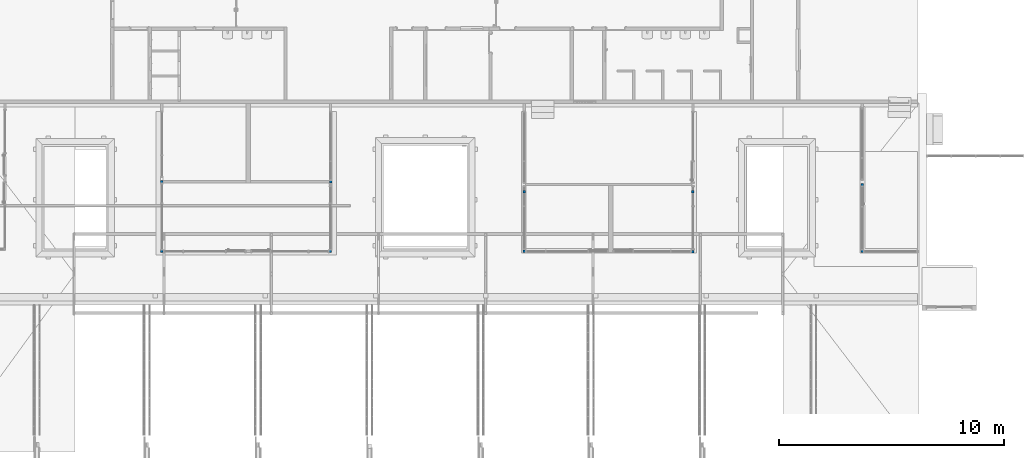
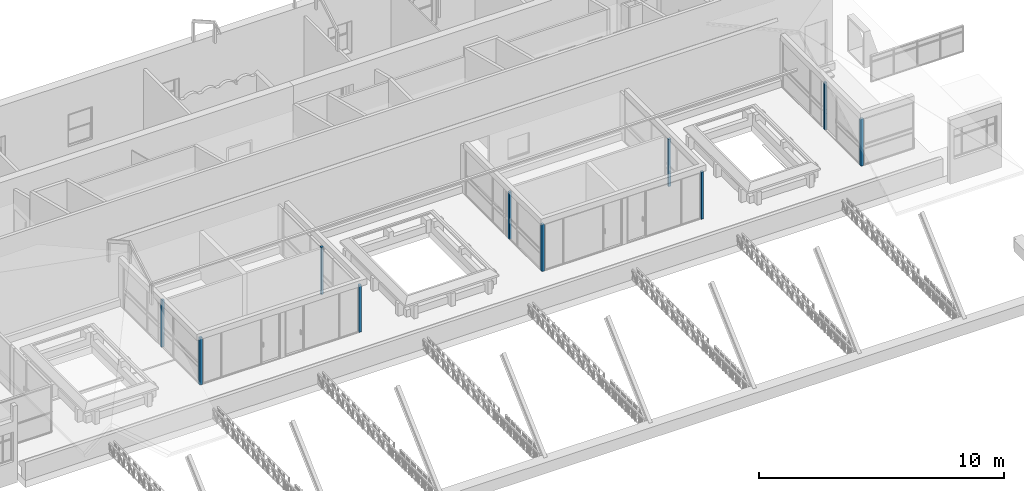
# One storey, part 1 of 153: 10 columns.
"""IFC4 building model written with IfcOpenShell, lengths in metres."""

from ifc_helpers import new_model, entity, si_unit, converted_unit, derived_unit, direction, frame, origin, place, context, subcontext, project, spatial, indexed_curve, outline, extrude, source, transform, mapped, material, type_object, type_shapes, element, save


model = new_model("IFC4")

# Units and contexts
model_context = context("Model", 3, precision=1e-05, world=origin(), true_north=direction((6.123031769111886e-17, 1.0)))
body_context = subcontext(model_context, "Body", "Model", "MODEL_VIEW")
ifc_project = project(units=[si_unit("LENGTHUNIT", "METRE"), si_unit("AREAUNIT", "SQUARE_METRE"), si_unit("VOLUMEUNIT", "CUBIC_METRE"), converted_unit("PLANEANGLEUNIT", "DEGREE", entity("IfcRatioMeasure", 0.017453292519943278), si_unit("PLANEANGLEUNIT", "RADIAN"), dimensions=[0, 0, 0, 0, 0, 0, 0]), si_unit("MASSUNIT", "GRAM", prefix="KILO"), derived_unit("MASSDENSITYUNIT", [(si_unit("MASSUNIT", "GRAM", prefix="KILO"), 1), (si_unit("LENGTHUNIT", "METRE"), -3)]), derived_unit("MOMENTOFINERTIAUNIT", [(si_unit("LENGTHUNIT", "METRE"), 4)]), si_unit("TIMEUNIT", "SECOND"), si_unit("FREQUENCYUNIT", "HERTZ"), si_unit("THERMODYNAMICTEMPERATUREUNIT", "DEGREE_CELSIUS"), derived_unit("THERMALTRANSMITTANCEUNIT", [(si_unit("MASSUNIT", "GRAM", prefix="KILO"), 1), (si_unit("THERMODYNAMICTEMPERATUREUNIT", "KELVIN"), -1), (si_unit("TIMEUNIT", "SECOND"), -3)]), derived_unit("VOLUMETRICFLOWRATEUNIT", [(si_unit("LENGTHUNIT", "METRE"), 3), (si_unit("TIMEUNIT", "SECOND"), -1)]), derived_unit("MASSFLOWRATEUNIT", [(si_unit("MASSUNIT", "GRAM", prefix="KILO"), 1), (si_unit("TIMEUNIT", "SECOND"), -1)]), derived_unit("ROTATIONALFREQUENCYUNIT", [(si_unit("TIMEUNIT", "SECOND"), -1)]), si_unit("ELECTRICCURRENTUNIT", "AMPERE"), si_unit("ELECTRICVOLTAGEUNIT", "VOLT"), si_unit("POWERUNIT", "WATT"), si_unit("FORCEUNIT", "NEWTON", prefix="KILO"), si_unit("ILLUMINANCEUNIT", "LUX"), si_unit("LUMINOUSFLUXUNIT", "LUMEN"), si_unit("LUMINOUSINTENSITYUNIT", "CANDELA"), derived_unit("USERDEFINED", [(si_unit("MASSUNIT", "GRAM", prefix="KILO"), -1), (si_unit("LENGTHUNIT", "METRE"), -2), (si_unit("TIMEUNIT", "SECOND"), 3), (si_unit("LUMINOUSFLUXUNIT", "LUMEN"), 1)]), derived_unit("SOUNDPOWERUNIT", [(si_unit("MASSUNIT", "GRAM", prefix="KILO"), 1), (si_unit("LENGTHUNIT", "METRE"), 2), (si_unit("TIMEUNIT", "SECOND"), -3)]), derived_unit("SOUNDPRESSUREUNIT", [(si_unit("MASSUNIT", "GRAM", prefix="KILO"), 1), (si_unit("LENGTHUNIT", "METRE"), -1), (si_unit("TIMEUNIT", "SECOND"), -2)]), derived_unit("LINEARVELOCITYUNIT", [(si_unit("LENGTHUNIT", "METRE"), 1), (si_unit("TIMEUNIT", "SECOND"), -1)]), si_unit("PRESSUREUNIT", "PASCAL"), derived_unit("USERDEFINED", [(si_unit("LENGTHUNIT", "METRE"), -2), (si_unit("MASSUNIT", "GRAM", prefix="KILO"), 1), (si_unit("TIMEUNIT", "SECOND"), -2)]), derived_unit("LINEARFORCEUNIT", [(si_unit("MASSUNIT", "GRAM", prefix="KILO"), 1), (si_unit("LENGTHUNIT", "METRE"), 1), (si_unit("TIMEUNIT", "SECOND"), -2), (si_unit("LENGTHUNIT", "METRE"), -1)]), derived_unit("PLANARFORCEUNIT", [(si_unit("MASSUNIT", "GRAM", prefix="KILO"), 1), (si_unit("LENGTHUNIT", "METRE"), 1), (si_unit("TIMEUNIT", "SECOND"), -2), (si_unit("LENGTHUNIT", "METRE"), -2)])], contexts=[model_context])

# Site, building, storey
site_placement = place(None, origin())
site = spatial("IfcSite", under=ifc_project, at=site_placement, Name="Superficie", CompositionType="ELEMENT")
building_placement = place(site_placement, origin())
building = spatial("IfcBuilding", under=site, at=building_placement, CompositionType="ELEMENT")
storey_placement = place(building_placement, frame((0.0, 0.0, 3.5999999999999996)))
storey = spatial("IfcBuildingStorey", under=building, at=storey_placement, Name="Nivel 1", CompositionType="ELEMENT", Elevation=3.5999999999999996)

# Columns
ifc_material = material(Name="<Unnamed>")
column_type = type_object("IfcColumnType", Name="Pilar rectangular hormigón:110 x 110 mm 3", PredefinedType="COLUMN", material=ifc_material)
shared_shape = source(origin(), body_context, "Body", "SweptSolid", [
    extrude(outline(indexed_curve([(-0.054999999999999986, -0.054999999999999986), (0.054999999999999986, -0.054999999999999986), (0.054999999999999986, 0.054999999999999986), (-0.054999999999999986, 0.054999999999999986), (-0.054999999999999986, -0.054999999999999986)], self_intersect=False)), frame((0.0, 0.0, 3.5999999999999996), z_axis=(0.0, 0.0, 1.0), x_axis=(0.0, -1.0, 0.0)), (0.0, 0.0, 1.0), 2.35),
])
type_shapes(column_type, [shared_shape])
for number, where in (
    (1, (18.12679901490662, -0.9597671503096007, -3.5999999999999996)),
    (2, (18.126799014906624, 2.0102328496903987, -3.5999999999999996)),
    (3, (10.591799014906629, -0.9767564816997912, -3.5999999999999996)),
    (4, (10.596799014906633, 1.7020831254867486, -3.5999999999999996)),
    (5, (3.096799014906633, -0.9467564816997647, -3.5999999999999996)),
    (6, (3.091799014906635, 1.7020831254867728, -3.5999999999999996)),
    (7, (-5.5232009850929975, -0.9586067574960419, -3.5999999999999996)),
    (8, (-5.518200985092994, 2.136393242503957, -3.5999999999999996)),
    (9, (-13.018200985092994, -0.9586067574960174, -3.5999999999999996)),
    (10, (-13.023200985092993, 2.1413932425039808, -3.5999999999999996)),
):
    element("IfcColumn", number, at=place(storey_placement, frame(where)), inside=storey, type_object=column_type, material=ifc_material, Name="Pilar rectangular hormigón:110 x 110 mm 3", ObjectType="Pilar rectangular hormigón:110 x 110 mm 3", PredefinedType="COLUMN", context=body_context, shape_type="MappedRepresentation", body=[
        mapped(shared_shape, transform((0.0, 0.0, 0.0), scale=1.0)),
    ])

save(model, "model.ifc")
